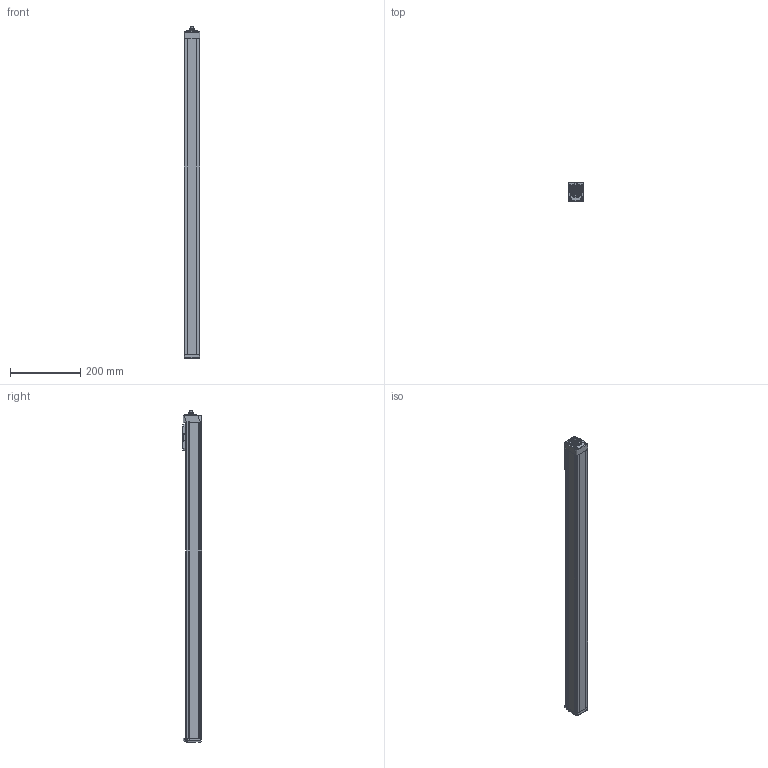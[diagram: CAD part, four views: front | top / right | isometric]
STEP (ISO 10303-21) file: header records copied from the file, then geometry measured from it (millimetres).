
FILE_DESCRIPTION(/* description */ ('STEP AP214'),/* implementation_level */ '2;1');
FILE_NAME(/* name */ 'MGBS 45 1003 800(0)',/* time_stamp */ '2023-04-12T11:12:17+02:00',/* author */ ('License CC BY-ND 4.0'),/* organization */ ('CADENAS'),/* preprocessor_version */ 'ST-DEVELOPER v19.3',/* originating_system */ 'PARTsolutions',/* authorisation */ ' ');
FILE_SCHEMA (('AUTOMOTIVE_DESIGN {1 0 10303 214 3 1 1}'));
Length unit declared in the file: millimetre
Products named in the file (6): MGBS 45 1003 800(0); MGBS 45 800_protection_strip; MGBS 45_carriage; MGBS 45_end_block; MGBS 45 800_profile; MGBS 45_drive_block
Assembly tree (5 placements, depth 2):
  MGBS 45 1003 800(0)
    MGBS 45 800_protection_strip
    MGBS 45_carriage
    MGBS 45_end_block
    MGBS 45 800_profile
    MGBS 45_drive_block
Bounding box: 45 x 54 x 943 mm (x, y, z)
Volume: 1802950.5 mm3; surface area: 285600.7 mm2
Topology: 5 solids, 5 shells, 655 faces, 1721 edges, 1113 vertices
Faces by surface type: plane 312, cylinder 156, cone 94, bspline 64, torus 27, sphere 2
Full cylindrical faces by diameter (mm): 1 x1, 1.755 x4, 2.459 x6, 2.46 x2, 2.5 x8, 3 x4, 3.242 x8, 3.8 x6, 4 x2, 4.5 x4, 5 x2, 5.5 x4, 6.5 x4, 8 x1, 11 x2, 16 x1, 24.5 x1, 34 x2, 38.2 x1
Entity records: 23967 total; most frequent: CARTESIAN_POINT 4130, DIRECTION 3272, ORIENTED_EDGE 3064, EDGE_CURVE 1532, AXIS2_PLACEMENT_3D 1183, VERTEX_POINT 1095, LINE 906, VECTOR 906
